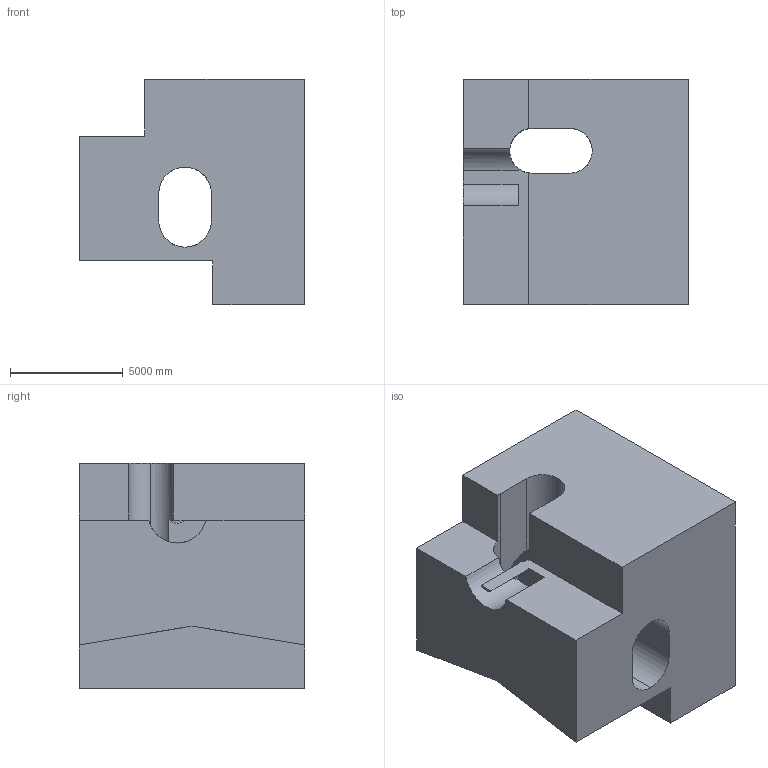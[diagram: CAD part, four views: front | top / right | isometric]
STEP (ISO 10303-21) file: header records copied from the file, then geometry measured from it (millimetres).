
FILE_DESCRIPTION (( 'STEP AP203' ), '1' );
FILE_NAME ('1451.STEP', '2022-08-18T14:33:17', ( 'user' ), ( '' ), 'SwSTEP 2.0', 'SolidWorks 2021', '' );
FILE_SCHEMA (( 'CONFIG_CONTROL_DESIGN' ));
Length unit declared in the file: centimetre
Products named in the file (1): 1451
Bounding box: 10000 x 10000 x 10000 mm (x, y, z)
Volume: 678963501911.5 mm3; surface area: 663560244.3 mm2
Topology: 1 solids, 1 shells, 31 faces, 99 edges, 66 vertices
Faces by surface type: plane 20, cylinder 11
Entity records: 1553 total; most frequent: CARTESIAN_POINT 598, ORIENTED_EDGE 198, DIRECTION 172, EDGE_CURVE 99, VECTOR 66, VERTEX_POINT 66, LINE 66, AXIS2_PLACEMENT_3D 53
